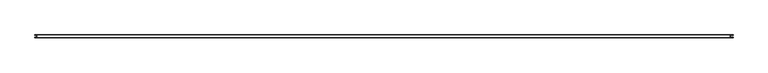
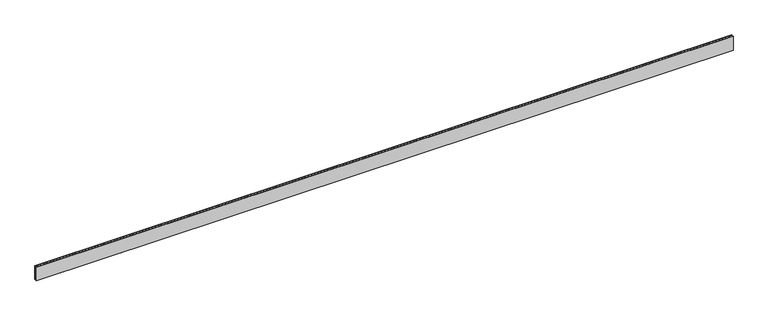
"""IFC4 building model written with IfcOpenShell, lengths in millimetres: proxy geometry, Durabond Generic Soffit Drainage Vent : Durabond Generic Soffit Drainage Vent."""

from ifc_helpers import new_model, si_unit, origin, origin_with_axes, place, context, project, spatial, polyline, outline, extrude, source, transform, mapped, element, save


def generic_models_2e656d56(model_context):
    return source(origin(), model_context, "Body", "SweptSolid", [
        extrude(outline(polyline([(-605.7989751, -3.96875), (-605.7989751, -0.79375), (-609.3708501, -0.79375), (-609.3708501, 0.0), (609.3708501, 0.0), (609.3708501, -0.79375), (604.6083501, -0.79375), (604.6083501, -3.96875), (609.3708501, -3.96875), (609.3708501, -4.7625), (-609.3708501, -4.7625), (-609.3708501, -3.96875), (-605.7989751, -3.96875)]), holes=[polyline([(-600.2248016, -0.79375), (-604.9873016, -0.79375), (-604.9873016, -3.96875), (-600.2248016, -3.96875), (-600.2248016, -0.79375)]), polyline([(-599.4131281, -0.79375), (-599.4131281, -3.96875), (-594.6506281, -3.96875), (-594.6506281, -0.79375), (-599.4131281, -0.79375)]), polyline([(-589.0764546, -0.79375), (-593.8389546, -0.79375), (-593.8389546, -3.96875), (-589.0764546, -3.96875), (-589.0764546, -0.79375)]), polyline([(-588.264781, -0.79375), (-588.264781, -3.96875), (-583.502281, -3.96875), (-583.502281, -0.79375), (-588.264781, -0.79375)]), polyline([(-577.9281075, -0.79375), (-582.6906075, -0.79375), (-582.6906075, -3.96875), (-577.9281075, -3.96875), (-577.9281075, -0.79375)]), polyline([(-577.116434, -0.79375), (-577.116434, -3.96875), (-572.353934, -3.96875), (-572.353934, -0.79375), (-577.116434, -0.79375)]), polyline([(-566.7797605, -0.79375), (-571.5422605, -0.79375), (-571.5422605, -3.96875), (-566.7797605, -3.96875), (-566.7797605, -0.79375)]), polyline([(-565.968087, -0.79375), (-565.968087, -3.96875), (-561.205587, -3.96875), (-561.205587, -0.79375), (-565.968087, -0.79375)]), polyline([(-555.6314135, -0.79375), (-560.3939135, -0.79375), (-560.3939135, -3.96875), (-555.6314135, -3.96875), (-555.6314135, -0.79375)]), polyline([(-554.81974, -0.79375), (-554.81974, -3.96875), (-550.05724, -3.96875), (-550.05724, -0.79375), (-554.81974, -0.79375)]), polyline([(-544.4830665, -0.79375), (-549.2455665, -0.79375), (-549.2455665, -3.96875), (-544.4830665, -3.96875), (-544.4830665, -0.79375)]), polyline([(-543.671393, -0.79375), (-543.671393, -3.96875), (-538.908893, -3.96875), (-538.908893, -0.79375), (-543.671393, -0.79375)]), polyline([(-533.3347195, -0.79375), (-538.0972195, -0.79375), (-538.0972195, -3.96875), (-533.3347195, -3.96875), (-533.3347195, -0.79375)]), polyline([(-532.5230459, -0.79375), (-532.5230459, -3.96875), (-527.7605459, -3.96875), (-527.7605459, -0.79375), (-532.5230459, -0.79375)]), polyline([(-522.1863724, -0.79375), (-526.9488724, -0.79375), (-526.9488724, -3.96875), (-522.1863724, -3.96875), (-522.1863724, -0.79375)]), polyline([(-521.3746989, -0.79375), (-521.3746989, -3.96875), (-516.6121989, -3.96875), (-516.6121989, -0.79375), (-521.3746989, -0.79375)]), polyline([(-511.0380254, -0.79375), (-515.8005254, -0.79375), (-515.8005254, -3.96875), (-511.0380254, -3.96875), (-511.0380254, -0.79375)]), polyline([(-510.2263519, -0.79375), (-510.2263519, -3.96875), (-505.4638519, -3.96875), (-505.4638519, -0.79375), (-510.2263519, -0.79375)]), polyline([(-499.8896784, -0.79375), (-504.6521784, -0.79375), (-504.6521784, -3.96875), (-499.8896784, -3.96875), (-499.8896784, -0.79375)]), polyline([(-499.0780049, -0.79375), (-499.0780049, -3.96875), (-494.3155049, -3.96875), (-494.3155049, -0.79375), (-499.0780049, -0.79375)]), polyline([(-488.7413314, -0.79375), (-493.5038314, -0.79375), (-493.5038314, -3.96875), (-488.7413314, -3.96875), (-488.7413314, -0.79375)]), polyline([(-487.9296579, -0.79375), (-487.9296579, -3.96875), (-483.1671579, -3.96875), (-483.1671579, -0.79375), (-487.9296579, -0.79375)]), polyline([(-477.5929844, -0.79375), (-482.3554844, -0.79375), (-482.3554844, -3.96875), (-477.5929844, -3.96875), (-477.5929844, -0.79375)]), polyline([(-476.7813108, -0.79375), (-476.7813108, -3.96875), (-472.0188108, -3.96875), (-472.0188108, -0.79375), (-476.7813108, -0.79375)]), polyline([(-466.4446373, -0.79375), (-471.2071373, -0.79375), (-471.2071373, -3.96875), (-466.4446373, -3.96875), (-466.4446373, -0.79375)]), polyline([(-465.6329638, -0.79375), (-465.6329638, -3.96875), (-460.8704638, -3.96875), (-460.8704638, -0.79375), (-465.6329638, -0.79375)]), polyline([(-455.2962903, -0.79375), (-460.0587903, -0.79375), (-460.0587903, -3.96875), (-455.2962903, -3.96875), (-455.2962903, -0.79375)]), polyline([(-454.4846168, -0.79375), (-454.4846168, -3.96875), (-449.7221168, -3.96875), (-449.7221168, -0.79375), (-454.4846168, -0.79375)]), polyline([(-444.1479433, -0.79375), (-448.9104433, -0.79375), (-448.9104433, -3.96875), (-444.1479433, -3.96875), (-444.1479433, -0.79375)]), polyline([(-443.3362698, -0.79375), (-443.3362698, -3.96875), (-438.5737698, -3.96875), (-438.5737698, -0.79375), (-443.3362698, -0.79375)]), polyline([(-432.9995963, -0.79375), (-437.7620963, -0.79375), (-437.7620963, -3.96875), (-432.9995963, -3.96875), (-432.9995963, -0.79375)]), polyline([(-432.1879228, -0.79375), (-432.1879228, -3.96875), (-427.4254228, -3.96875), (-427.4254228, -0.79375), (-432.1879228, -0.79375)]), polyline([(-421.8512493, -0.79375), (-426.6137493, -0.79375), (-426.6137493, -3.96875), (-421.8512493, -3.96875), (-421.8512493, -0.79375)]), polyline([(-421.0395757, -0.79375), (-421.0395757, -3.96875), (-416.2770757, -3.96875), (-416.2770757, -0.79375), (-421.0395757, -0.79375)]), polyline([(-410.7029022, -0.79375), (-415.4654022, -0.79375), (-415.4654022, -3.96875), (-410.7029022, -3.96875), (-410.7029022, -0.79375)]), polyline([(-409.8912287, -0.79375), (-409.8912287, -3.96875), (-405.1287287, -3.96875), (-405.1287287, -0.79375), (-409.8912287, -0.79375)]), polyline([(-399.5545552, -0.79375), (-404.3170552, -0.79375), (-404.3170552, -3.96875), (-399.5545552, -3.96875), (-399.5545552, -0.79375)]), polyline([(-398.7428817, -0.79375), (-398.7428817, -3.96875), (-393.9803817, -3.96875), (-393.9803817, -0.79375), (-398.7428817, -0.79375)]), polyline([(-388.4062082, -0.79375), (-393.1687082, -0.79375), (-393.1687082, -3.96875), (-388.4062082, -3.96875), (-388.4062082, -0.79375)]), polyline([(-387.5945347, -0.79375), (-387.5945347, -3.96875), (-382.8320347, -3.96875), (-382.8320347, -0.79375), (-387.5945347, -0.79375)]), polyline([(-377.2578612, -0.79375), (-382.0203612, -0.79375), (-382.0203612, -3.96875), (-377.2578612, -3.96875), (-377.2578612, -0.79375)]), polyline([(-376.4461877, -0.79375), (-376.4461877, -3.96875), (-371.6836877, -3.96875), (-371.6836877, -0.79375), (-376.4461877, -0.79375)]), polyline([(-366.1095142, -0.79375), (-370.8720142, -0.79375), (-370.8720142, -3.96875), (-366.1095142, -3.96875), (-366.1095142, -0.79375)]), polyline([(-365.2978406, -0.79375), (-365.2978406, -3.96875), (-360.5353406, -3.96875), (-360.5353406, -0.79375), (-365.2978406, -0.79375)]), polyline([(-354.9611671, -0.79375), (-359.7236671, -0.79375), (-359.7236671, -3.96875), (-354.9611671, -3.96875), (-354.9611671, -0.79375)]), polyline([(-354.1494936, -0.79375), (-354.1494936, -3.96875), (-349.3869936, -3.96875), (-349.3869936, -0.79375), (-354.1494936, -0.79375)]), polyline([(-343.8128201, -0.79375), (-348.5753201, -0.79375), (-348.5753201, -3.96875), (-343.8128201, -3.96875), (-343.8128201, -0.79375)]), polyline([(-343.0011466, -0.79375), (-343.0011466, -3.96875), (-338.2386466, -3.96875), (-338.2386466, -0.79375), (-343.0011466, -0.79375)]), polyline([(-332.6644731, -0.79375), (-337.4269731, -0.79375), (-337.4269731, -3.96875), (-332.6644731, -3.96875), (-332.6644731, -0.79375)]), polyline([(-331.8527996, -0.79375), (-331.8527996, -3.96875), (-327.0902996, -3.96875), (-327.0902996, -0.79375), (-331.8527996, -0.79375)]), polyline([(-321.5161261, -0.79375), (-326.2786261, -0.79375), (-326.2786261, -3.96875), (-321.5161261, -3.96875), (-321.5161261, -0.79375)]), polyline([(-320.7044526, -0.79375), (-320.7044526, -3.96875), (-315.9419526, -3.96875), (-315.9419526, -0.79375), (-320.7044526, -0.79375)]), polyline([(-310.3677791, -0.79375), (-315.1302791, -0.79375), (-315.1302791, -3.96875), (-310.3677791, -3.96875), (-310.3677791, -0.79375)]), polyline([(-309.5561055, -0.79375), (-309.5561055, -3.96875), (-304.7936055, -3.96875), (-304.7936055, -0.79375), (-309.5561055, -0.79375)]), polyline([(-299.219432, -0.79375), (-303.981932, -0.79375), (-303.981932, -3.96875), (-299.219432, -3.96875), (-299.219432, -0.79375)]), polyline([(-298.4077585, -0.79375), (-298.4077585, -3.96875), (-293.6452585, -3.96875), (-293.6452585, -0.79375), (-298.4077585, -0.79375)]), polyline([(-288.071085, -0.79375), (-292.833585, -0.79375), (-292.833585, -3.96875), (-288.071085, -3.96875), (-288.071085, -0.79375)]), polyline([(-287.2594115, -0.79375), (-287.2594115, -3.96875), (-282.4969115, -3.96875), (-282.4969115, -0.79375), (-287.2594115, -0.79375)]), polyline([(-276.922738, -0.79375), (-281.685238, -0.79375), (-281.685238, -3.96875), (-276.922738, -3.96875), (-276.922738, -0.79375)]), polyline([(-276.1110645, -0.79375), (-276.1110645, -3.96875), (-271.3485645, -3.96875), (-271.3485645, -0.79375), (-276.1110645, -0.79375)]), polyline([(-265.774391, -0.79375), (-270.536891, -0.79375), (-270.536891, -3.96875), (-265.774391, -3.96875), (-265.774391, -0.79375)]), polyline([(-264.9627175, -0.79375), (-264.9627175, -3.96875), (-260.2002175, -3.96875), (-260.2002175, -0.79375), (-264.9627175, -0.79375)]), polyline([(-254.626044, -0.79375), (-259.388544, -0.79375), (-259.388544, -3.96875), (-254.626044, -3.96875), (-254.626044, -0.79375)]), polyline([(-253.8143704, -0.79375), (-253.8143704, -3.96875), (-249.0518704, -3.96875), (-249.0518704, -0.79375), (-253.8143704, -0.79375)]), polyline([(-243.4776969, -0.79375), (-248.2401969, -0.79375), (-248.2401969, -3.96875), (-243.4776969, -3.96875), (-243.4776969, -0.79375)]), polyline([(-242.6660234, -0.79375), (-242.6660234, -3.96875), (-237.9035234, -3.96875), (-237.9035234, -0.79375), (-242.6660234, -0.79375)]), polyline([(-232.3293499, -0.79375), (-237.0918499, -0.79375), (-237.0918499, -3.96875), (-232.3293499, -3.96875), (-232.3293499, -0.79375)]), polyline([(-231.5176764, -0.79375), (-231.5176764, -3.96875), (-226.7551764, -3.96875), (-226.7551764, -0.79375), (-231.5176764, -0.79375)]), polyline([(-221.1810029, -0.79375), (-225.9435029, -0.79375), (-225.9435029, -3.96875), (-221.1810029, -3.96875), (-221.1810029, -0.79375)]), polyline([(-220.3693294, -0.79375), (-220.3693294, -3.96875), (-215.6068294, -3.96875), (-215.6068294, -0.79375), (-220.3693294, -0.79375)]), polyline([(-210.0326559, -0.79375), (-214.7951559, -0.79375), (-214.7951559, -3.96875), (-210.0326559, -3.96875), (-210.0326559, -0.79375)]), polyline([(-209.2209824, -0.79375), (-209.2209824, -3.96875), (-204.4584824, -3.96875), (-204.4584824, -0.79375), (-209.2209824, -0.79375)]), polyline([(-198.8843089, -0.79375), (-203.6468089, -0.79375), (-203.6468089, -3.96875), (-198.8843089, -3.96875), (-198.8843089, -0.79375)]), polyline([(-198.0726353, -0.79375), (-198.0726353, -3.96875), (-193.3101353, -3.96875), (-193.3101353, -0.79375), (-198.0726353, -0.79375)]), polyline([(-187.7359618, -0.79375), (-192.4984618, -0.79375), (-192.4984618, -3.96875), (-187.7359618, -3.96875), (-187.7359618, -0.79375)]), polyline([(-186.9242883, -0.79375), (-186.9242883, -3.96875), (-182.1617883, -3.96875), (-182.1617883, -0.79375), (-186.9242883, -0.79375)]), polyline([(-176.5876148, -0.79375), (-181.3501148, -0.79375), (-181.3501148, -3.96875), (-176.5876148, -3.96875), (-176.5876148, -0.79375)]), polyline([(-175.7759413, -0.79375), (-175.7759413, -3.96875), (-171.0134413, -3.96875), (-171.0134413, -0.79375), (-175.7759413, -0.79375)]), polyline([(-165.4392678, -0.79375), (-170.2017678, -0.79375), (-170.2017678, -3.96875), (-165.4392678, -3.96875), (-165.4392678, -0.79375)]), polyline([(-164.6275943, -0.79375), (-164.6275943, -3.96875), (-159.8650943, -3.96875), (-159.8650943, -0.79375), (-164.6275943, -0.79375)]), polyline([(-154.2909208, -0.79375), (-159.0534208, -0.79375), (-159.0534208, -3.96875), (-154.2909208, -3.96875), (-154.2909208, -0.79375)]), polyline([(-153.4792473, -0.79375), (-153.4792473, -3.96875), (-148.7167473, -3.96875), (-148.7167473, -0.79375), (-153.4792473, -0.79375)]), polyline([(-143.1425738, -0.79375), (-147.9050738, -0.79375), (-147.9050738, -3.96875), (-143.1425738, -3.96875), (-143.1425738, -0.79375)]), polyline([(-142.3309002, -0.79375), (-142.3309002, -3.96875), (-137.5684002, -3.96875), (-137.5684002, -0.79375), (-142.3309002, -0.79375)]), polyline([(-131.9942267, -0.79375), (-136.7567267, -0.79375), (-136.7567267, -3.96875), (-131.9942267, -3.96875), (-131.9942267, -0.79375)]), polyline([(-131.1825532, -0.79375), (-131.1825532, -3.96875), (-126.4200532, -3.96875), (-126.4200532, -0.79375), (-131.1825532, -0.79375)]), polyline([(-120.8458797, -0.79375), (-125.6083797, -0.79375), (-125.6083797, -3.96875), (-120.8458797, -3.96875), (-120.8458797, -0.79375)]), polyline([(-120.0342062, -0.79375), (-120.0342062, -3.96875), (-115.2717062, -3.96875), (-115.2717062, -0.79375), (-120.0342062, -0.79375)]), polyline([(-109.6975327, -0.79375), (-114.4600327, -0.79375), (-114.4600327, -3.96875), (-109.6975327, -3.96875), (-109.6975327, -0.79375)]), polyline([(-108.8858592, -0.79375), (-108.8858592, -3.96875), (-104.1233592, -3.96875), (-104.1233592, -0.79375), (-108.8858592, -0.79375)]), polyline([(-98.5491857, -0.79375), (-103.3116857, -0.79375), (-103.3116857, -3.96875), (-98.5491857, -3.96875), (-98.5491857, -0.79375)]), polyline([(-97.7375122, -0.79375), (-97.7375122, -3.96875), (-92.9750122, -3.96875), (-92.9750122, -0.79375), (-97.7375122, -0.79375)]), polyline([(-87.4008387, -0.79375), (-92.1633387, -0.79375), (-92.1633387, -3.96875), (-87.4008387, -3.96875), (-87.4008387, -0.79375)]), polyline([(-86.5891651, -0.79375), (-86.5891651, -3.96875), (-81.8266651, -3.96875), (-81.8266651, -0.79375), (-86.5891651, -0.79375)]), polyline([(-76.2524916, -0.79375), (-81.0149916, -0.79375), (-81.0149916, -3.96875), (-76.2524916, -3.96875), (-76.2524916, -0.79375)]), polyline([(-75.4408181, -0.79375), (-75.4408181, -3.96875), (-70.6783181, -3.96875), (-70.6783181, -0.79375), (-75.4408181, -0.79375)]), polyline([(-65.1041446, -0.79375), (-69.8666446, -0.79375), (-69.8666446, -3.96875), (-65.1041446, -3.96875), (-65.1041446, -0.79375)]), polyline([(-64.2924711, -0.79375), (-64.2924711, -3.96875), (-59.5299711, -3.96875), (-59.5299711, -0.79375), (-64.2924711, -0.79375)]), polyline([(-53.9557976, -0.79375), (-58.7182976, -0.79375), (-58.7182976, -3.96875), (-53.9557976, -3.96875), (-53.9557976, -0.79375)]), polyline([(-53.1441241, -0.79375), (-53.1441241, -3.96875), (-48.3816241, -3.96875), (-48.3816241, -0.79375), (-53.1441241, -0.79375)]), polyline([(-42.8074506, -0.79375), (-47.5699506, -0.79375), (-47.5699506, -3.96875), (-42.8074506, -3.96875), (-42.8074506, -0.79375)]), polyline([(-41.9957771, -0.79375), (-41.9957771, -3.96875), (-37.2332771, -3.96875), (-37.2332771, -0.79375), (-41.9957771, -0.79375)]), polyline([(-31.6591036, -0.79375), (-36.4216036, -0.79375), (-36.4216036, -3.96875), (-31.6591036, -3.96875), (-31.6591036, -0.79375)]), polyline([(-30.84743, -0.79375), (-30.84743, -3.96875), (-26.08493, -3.96875), (-26.08493, -0.79375), (-30.84743, -0.79375)]), polyline([(-20.5107565, -0.79375), (-25.2732565, -0.79375), (-25.2732565, -3.96875), (-20.5107565, -3.96875), (-20.5107565, -0.79375)]), polyline([(-19.699083, -0.79375), (-19.699083, -3.96875), (-14.936583, -3.96875), (-14.936583, -0.79375), (-19.699083, -0.79375)]), polyline([(-9.3624095, -0.79375), (-14.1249095, -0.79375), (-14.1249095, -3.96875), (-9.3624095, -3.96875), (-9.3624095, -0.79375)]), polyline([(-8.550736, -0.79375), (-8.550736, -3.96875), (-3.788236, -3.96875), (-3.788236, -0.79375), (-8.550736, -0.79375)]), polyline([(1.7859375, -0.79375), (-2.9765625, -0.79375), (-2.9765625, -3.96875), (1.7859375, -3.96875), (1.7859375, -0.79375)]), polyline([(2.597611, -0.79375), (2.597611, -3.96875), (7.360111, -3.96875), (7.360111, -0.79375), (2.597611, -0.79375)]), polyline([(12.9342845, -0.79375), (8.1717845, -0.79375), (8.1717845, -3.96875), (12.9342845, -3.96875), (12.9342845, -0.79375)]), polyline([(13.745958, -0.79375), (13.745958, -3.96875), (18.508458, -3.96875), (18.508458, -0.79375), (13.745958, -0.79375)]), polyline([(24.0826315, -0.79375), (19.3201315, -0.79375), (19.3201315, -3.96875), (24.0826315, -3.96875), (24.0826315, -0.79375)]), polyline([(24.894305, -0.79375), (24.894305, -3.96875), (29.656805, -3.96875), (29.656805, -0.79375), (24.894305, -0.79375)]), polyline([(35.2309786, -0.79375), (30.4684786, -0.79375), (30.4684786, -3.96875), (35.2309786, -3.96875), (35.2309786, -0.79375)]), polyline([(36.0426521, -0.79375), (36.0426521, -3.96875), (40.8051521, -3.96875), (40.8051521, -0.79375), (36.0426521, -0.79375)]), polyline([(46.3793256, -0.79375), (41.6168256, -0.79375), (41.6168256, -3.96875), (46.3793256, -3.96875), (46.3793256, -0.79375)]), polyline([(47.1909991, -0.79375), (47.1909991, -3.96875), (51.9534991, -3.96875), (51.9534991, -0.79375), (47.1909991, -0.79375)]), polyline([(57.5276726, -0.79375), (52.7651726, -0.79375), (52.7651726, -3.96875), (57.5276726, -3.96875), (57.5276726, -0.79375)]), polyline([(58.3393461, -0.79375), (58.3393461, -3.96875), (63.1018461, -3.96875), (63.1018461, -0.79375), (58.3393461, -0.79375)]), polyline([(68.6760196, -0.79375), (63.9135196, -0.79375), (63.9135196, -3.96875), (68.6760196, -3.96875), (68.6760196, -0.79375)]), polyline([(69.4876931, -0.79375), (69.4876931, -3.96875), (74.2501931, -3.96875), (74.2501931, -0.79375), (69.4876931, -0.79375)]), polyline([(79.8243666, -0.79375), (75.0618666, -0.79375), (75.0618666, -3.96875), (79.8243666, -3.96875), (79.8243666, -0.79375)]), polyline([(80.6360401, -0.79375), (80.6360401, -3.96875), (85.3985401, -3.96875), (85.3985401, -0.79375), (80.6360401, -0.79375)]), polyline([(90.9727137, -0.79375), (86.2102137, -0.79375), (86.2102137, -3.96875), (90.9727137, -3.96875), (90.9727137, -0.79375)]), polyline([(91.7843872, -0.79375), (91.7843872, -3.96875), (96.5468872, -3.96875), (96.5468872, -0.79375), (91.7843872, -0.79375)]), polyline([(102.1210607, -0.79375), (97.3585607, -0.79375), (97.3585607, -3.96875), (102.1210607, -3.96875), (102.1210607, -0.79375)]), polyline([(102.9327342, -0.79375), (102.9327342, -3.96875), (107.6952342, -3.96875), (107.6952342, -0.79375), (102.9327342, -0.79375)]), polyline([(113.2694077, -0.79375), (108.5069077, -0.79375), (108.5069077, -3.96875), (113.2694077, -3.96875), (113.2694077, -0.79375)]), polyline([(114.0810812, -0.79375), (114.0810812, -3.96875), (118.8435812, -3.96875), (118.8435812, -0.79375), (114.0810812, -0.79375)]), polyline([(124.4177547, -0.79375), (119.6552547, -0.79375), (119.6552547, -3.96875), (124.4177547, -3.96875), (124.4177547, -0.79375)]), polyline([(125.2294282, -0.79375), (125.2294282, -3.96875), (129.9919282, -3.96875), (129.9919282, -0.79375), (125.2294282, -0.79375)]), polyline([(135.5661017, -0.79375), (130.8036017, -0.79375), (130.8036017, -3.96875), (135.5661017, -3.96875), (135.5661017, -0.79375)]), polyline([(136.3777752, -0.79375), (136.3777752, -3.96875), (141.1402752, -3.96875), (141.1402752, -0.79375), (136.3777752, -0.79375)]), polyline([(146.7144488, -0.79375), (141.9519488, -0.79375), (141.9519488, -3.96875), (146.7144488, -3.96875), (146.7144488, -0.79375)]), polyline([(147.5261223, -0.79375), (147.5261223, -3.96875), (152.2886223, -3.96875), (152.2886223, -0.79375), (147.5261223, -0.79375)]), polyline([(157.8627958, -0.79375), (153.1002958, -0.79375), (153.1002958, -3.96875), (157.8627958, -3.96875), (157.8627958, -0.79375)]), polyline([(158.6744693, -0.79375), (158.6744693, -3.96875), (163.4369693, -3.96875), (163.4369693, -0.79375), (158.6744693, -0.79375)]), polyline([(169.0111428, -0.79375), (164.2486428, -0.79375), (164.2486428, -3.96875), (169.0111428, -3.96875), (169.0111428, -0.79375)]), polyline([(169.8228163, -0.79375), (169.8228163, -3.96875), (174.5853163, -3.96875), (174.5853163, -0.79375), (169.8228163, -0.79375)]), polyline([(180.1594898, -0.79375), (175.3969898, -0.79375), (175.3969898, -3.96875), (180.1594898, -3.96875), (180.1594898, -0.79375)]), polyline([(180.9711633, -0.79375), (180.9711633, -3.96875), (185.7336633, -3.96875), (185.7336633, -0.79375), (180.9711633, -0.79375)]), polyline([(191.3078368, -0.79375), (186.5453368, -0.79375), (186.5453368, -3.96875), (191.3078368, -3.96875), (191.3078368, -0.79375)]), polyline([(192.1195103, -0.79375), (192.1195103, -3.96875), (196.8820103, -3.96875), (196.8820103, -0.79375), (192.1195103, -0.79375)]), polyline([(202.4561839, -0.79375), (197.6936839, -0.79375), (197.6936839, -3.96875), (202.4561839, -3.96875), (202.4561839, -0.79375)]), polyline([(203.2678574, -0.79375), (203.2678574, -3.96875), (208.0303574, -3.96875), (208.0303574, -0.79375), (203.2678574, -0.79375)]), polyline([(213.6045309, -0.79375), (208.8420309, -0.79375), (208.8420309, -3.96875), (213.6045309, -3.96875), (213.6045309, -0.79375)]), polyline([(214.4162044, -0.79375), (214.4162044, -3.96875), (219.1787044, -3.96875), (219.1787044, -0.79375), (214.4162044, -0.79375)]), polyline([(224.7528779, -0.79375), (219.9903779, -0.79375), (219.9903779, -3.96875), (224.7528779, -3.96875), (224.7528779, -0.79375)]), polyline([(225.5645514, -0.79375), (225.5645514, -3.96875), (230.3270514, -3.96875), (230.3270514, -0.79375), (225.5645514, -0.79375)]), polyline([(235.9012249, -0.79375), (231.1387249, -0.79375), (231.1387249, -3.96875), (235.9012249, -3.96875), (235.9012249, -0.79375)]), polyline([(236.7128984, -0.79375), (236.7128984, -3.96875), (241.4753984, -3.96875), (241.4753984, -0.79375), (236.7128984, -0.79375)]), polyline([(247.0495719, -0.79375), (242.2870719, -0.79375), (242.2870719, -3.96875), (247.0495719, -3.96875), (247.0495719, -0.79375)]), polyline([(247.8612454, -0.79375), (247.8612454, -3.96875), (252.6237454, -3.96875), (252.6237454, -0.79375), (247.8612454, -0.79375)]), polyline([(258.197919, -0.79375), (253.435419, -0.79375), (253.435419, -3.96875), (258.197919, -3.96875), (258.197919, -0.79375)]), polyline([(259.0095925, -0.79375), (259.0095925, -3.96875), (263.7720925, -3.96875), (263.7720925, -0.79375), (259.0095925, -0.79375)]), polyline([(269.346266, -0.79375), (264.583766, -0.79375), (264.583766, -3.96875), (269.346266, -3.96875), (269.346266, -0.79375)]), polyline([(270.1579395, -0.79375), (270.1579395, -3.96875), (274.9204395, -3.96875), (274.9204395, -0.79375), (270.1579395, -0.79375)]), polyline([(280.494613, -0.79375), (275.732113, -0.79375), (275.732113, -3.96875), (280.494613, -3.96875), (280.494613, -0.79375)]), polyline([(281.3062865, -0.79375), (281.3062865, -3.96875), (286.0687865, -3.96875), (286.0687865, -0.79375), (281.3062865, -0.79375)]), polyline([(291.64296, -0.79375), (286.88046, -0.79375), (286.88046, -3.96875), (291.64296, -3.96875), (291.64296, -0.79375)]), polyline([(292.4546335, -0.79375), (292.4546335, -3.96875), (297.2171335, -3.96875), (297.2171335, -0.79375), (292.4546335, -0.79375)]), polyline([(302.791307, -0.79375), (298.028807, -0.79375), (298.028807, -3.96875), (302.791307, -3.96875), (302.791307, -0.79375)]), polyline([(303.6029805, -0.79375), (303.6029805, -3.96875), (308.3654805, -3.96875), (308.3654805, -0.79375), (303.6029805, -0.79375)]), polyline([(313.9396541, -0.79375), (309.1771541, -0.79375), (309.1771541, -3.96875), (313.9396541, -3.96875), (313.9396541, -0.79375)]), polyline([(314.7513276, -0.79375), (314.7513276, -3.96875), (319.5138276, -3.96875), (319.5138276, -0.79375), (314.7513276, -0.79375)]), polyline([(325.0880011, -0.79375), (320.3255011, -0.79375), (320.3255011, -3.96875), (325.0880011, -3.96875), (325.0880011, -0.79375)]), polyline([(325.8996746, -0.79375), (325.8996746, -3.96875), (330.6621746, -3.96875), (330.6621746, -0.79375), (325.8996746, -0.79375)]), polyline([(336.2363481, -0.79375), (331.4738481, -0.79375), (331.4738481, -3.96875), (336.2363481, -3.96875), (336.2363481, -0.79375)]), polyline([(337.0480216, -0.79375), (337.0480216, -3.96875), (341.8105216, -3.96875), (341.8105216, -0.79375), (337.0480216, -0.79375)]), polyline([(347.3846951, -0.79375), (342.6221951, -0.79375), (342.6221951, -3.96875), (347.3846951, -3.96875), (347.3846951, -0.79375)]), polyline([(348.1963686, -0.79375), (348.1963686, -3.96875), (352.9588686, -3.96875), (352.9588686, -0.79375), (348.1963686, -0.79375)]), polyline([(358.5330421, -0.79375), (353.7705421, -0.79375), (353.7705421, -3.96875), (358.5330421, -3.96875), (358.5330421, -0.79375)]), polyline([(359.3447156, -0.79375), (359.3447156, -3.96875), (364.1072156, -3.96875), (364.1072156, -0.79375), (359.3447156, -0.79375)]), polyline([(369.6813892, -0.79375), (364.9188892, -0.79375), (364.9188892, -3.96875), (369.6813892, -3.96875), (369.6813892, -0.79375)]), polyline([(370.4930627, -0.79375), (370.4930627, -3.96875), (375.2555627, -3.96875), (375.2555627, -0.79375), (370.4930627, -0.79375)]), polyline([(380.8297362, -0.79375), (376.0672362, -0.79375), (376.0672362, -3.96875), (380.8297362, -3.96875), (380.8297362, -0.79375)]), polyline([(381.6414097, -0.79375), (381.6414097, -3.96875), (386.4039097, -3.96875), (386.4039097, -0.79375), (381.6414097, -0.79375)]), polyline([(391.9780832, -0.79375), (387.2155832, -0.79375), (387.2155832, -3.96875), (391.9780832, -3.96875), (391.9780832, -0.79375)]), polyline([(392.7897567, -0.79375), (392.7897567, -3.96875), (397.5522567, -3.96875), (397.5522567, -0.79375), (392.7897567, -0.79375)]), polyline([(403.1264302, -0.79375), (398.3639302, -0.79375), (398.3639302, -3.96875), (403.1264302, -3.96875), (403.1264302, -0.79375)]), polyline([(403.9381037, -0.79375), (403.9381037, -3.96875), (408.7006037, -3.96875), (408.7006037, -0.79375), (403.9381037, -0.79375)]), polyline([(414.2747772, -0.79375), (409.5122772, -0.79375), (409.5122772, -3.96875), (414.2747772, -3.96875), (414.2747772, -0.79375)]), polyline([(415.0864507, -0.79375), (415.0864507, -3.96875), (419.8489507, -3.96875), (419.8489507, -0.79375), (415.0864507, -0.79375)]), polyline([(425.4231243, -0.79375), (420.6606243, -0.79375), (420.6606243, -3.96875), (425.4231243, -3.96875), (425.4231243, -0.79375)]), polyline([(426.2347978, -0.79375), (426.2347978, -3.96875), (430.9972978, -3.96875), (430.9972978, -0.79375), (426.2347978, -0.79375)]), polyline([(436.5714713, -0.79375), (431.8089713, -0.79375), (431.8089713, -3.96875), (436.5714713, -3.96875), (436.5714713, -0.79375)]), polyline([(437.3831448, -0.79375), (437.3831448, -3.96875), (442.1456448, -3.96875), (442.1456448, -0.79375), (437.3831448, -0.79375)]), polyline([(447.7198183, -0.79375), (442.9573183, -0.79375), (442.9573183, -3.96875), (447.7198183, -3.96875), (447.7198183, -0.79375)]), polyline([(448.5314918, -0.79375), (448.5314918, -3.96875), (453.2939918, -3.96875), (453.2939918, -0.79375), (448.5314918, -0.79375)]), polyline([(458.8681653, -0.79375), (454.1056653, -0.79375), (454.1056653, -3.96875), (458.8681653, -3.96875), (458.8681653, -0.79375)]), polyline([(459.6798388, -0.79375), (459.6798388, -3.96875), (464.4423388, -3.96875), (464.4423388, -0.79375), (459.6798388, -0.79375)]), polyline([(470.0165123, -0.79375), (465.2540123, -0.79375), (465.2540123, -3.96875), (470.0165123, -3.96875), (470.0165123, -0.79375)]), polyline([(470.8281858, -0.79375), (470.8281858, -3.96875), (475.5906858, -3.96875), (475.5906858, -0.79375), (470.8281858, -0.79375)]), polyline([(481.1648594, -0.79375), (476.4023594, -0.79375), (476.4023594, -3.96875), (481.1648594, -3.96875), (481.1648594, -0.79375)]), polyline([(481.9765329, -0.79375), (481.9765329, -3.96875), (486.7390329, -3.96875), (486.7390329, -0.79375), (481.9765329, -0.79375)]), polyline([(492.3132064, -0.79375), (487.5507064, -0.79375), (487.5507064, -3.96875), (492.3132064, -3.96875), (492.3132064, -0.79375)]), polyline([(493.1248799, -0.79375), (493.1248799, -3.96875), (497.8873799, -3.96875), (497.8873799, -0.79375), (493.1248799, -0.79375)]), polyline([(503.4615534, -0.79375), (498.6990534, -0.79375), (498.6990534, -3.96875), (503.4615534, -3.96875), (503.4615534, -0.79375)]), polyline([(504.2732269, -0.79375), (504.2732269, -3.96875), (509.0357269, -3.96875), (509.0357269, -0.79375), (504.2732269, -0.79375)]), polyline([(514.6099004, -0.79375), (509.8474004, -0.79375), (509.8474004, -3.96875), (514.6099004, -3.96875), (514.6099004, -0.79375)]), polyline([(515.4215739, -0.79375), (515.4215739, -3.96875), (520.1840739, -3.96875), (520.1840739, -0.79375), (515.4215739, -0.79375)]), polyline([(525.7582474, -0.79375), (520.9957474, -0.79375), (520.9957474, -3.96875), (525.7582474, -3.96875), (525.7582474, -0.79375)]), polyline([(526.5699209, -0.79375), (526.5699209, -3.96875), (531.3324209, -3.96875), (531.3324209, -0.79375), (526.5699209, -0.79375)]), polyline([(536.9065945, -0.79375), (532.1440945, -0.79375), (532.1440945, -3.96875), (536.9065945, -3.96875), (536.9065945, -0.79375)]), polyline([(537.718268, -0.79375), (537.718268, -3.96875), (542.480768, -3.96875), (542.480768, -0.79375), (537.718268, -0.79375)]), polyline([(548.0549415, -0.79375), (543.2924415, -0.79375), (543.2924415, -3.96875), (548.0549415, -3.96875), (548.0549415, -0.79375)]), polyline([(548.866615, -0.79375), (548.866615, -3.96875), (553.629115, -3.96875), (553.629115, -0.79375), (548.866615, -0.79375)]), polyline([(559.2032885, -0.79375), (554.4407885, -0.79375), (554.4407885, -3.96875), (559.2032885, -3.96875), (559.2032885, -0.79375)]), polyline([(560.014962, -0.79375), (560.014962, -3.96875), (564.777462, -3.96875), (564.777462, -0.79375), (560.014962, -0.79375)]), polyline([(570.3516355, -0.79375), (565.5891355, -0.79375), (565.5891355, -3.96875), (570.3516355, -3.96875), (570.3516355, -0.79375)]), polyline([(571.163309, -0.79375), (571.163309, -3.96875), (575.925809, -3.96875), (575.925809, -0.79375), (571.163309, -0.79375)]), polyline([(581.4999825, -0.79375), (576.7374825, -0.79375), (576.7374825, -3.96875), (581.4999825, -3.96875), (581.4999825, -0.79375)]), polyline([(582.311656, -0.79375), (582.311656, -3.96875), (587.074156, -3.96875), (587.074156, -0.79375), (582.311656, -0.79375)]), polyline([(592.6483296, -0.79375), (587.8858296, -0.79375), (587.8858296, -3.96875), (592.6483296, -3.96875), (592.6483296, -0.79375)]), polyline([(593.4600031, -0.79375), (593.4600031, -3.96875), (598.2225031, -3.96875), (598.2225031, -0.79375), (593.4600031, -0.79375)]), polyline([(603.7966766, -0.79375), (599.0341766, -0.79375), (599.0341766, -3.96875), (603.7966766, -3.96875), (603.7966766, -0.79375)])]), origin_with_axes(), (0.0, 0.0, 1.0), 25.4),
    ])


if __name__ == "__main__":
    model = new_model("IFC4")
    model_context = context("Model", 3, world=origin())
    ifc_project = project(units=[si_unit("LENGTHUNIT", "METRE", prefix="MILLI")], contexts=[model_context])
    site = spatial("IfcSite", under=ifc_project)
    building = spatial("IfcBuilding", under=site)
    placement = place(None, origin())
    generic_models_shape = generic_models_2e656d56(model_context)
    element("IfcBuildingElementProxy", 1, Name="Durabond Generic Soffit Drainage Vent : Durabond Generic Soffit Drainage Vent", ObjectType="Durabond Generic Soffit Drainage Vent : Durabond Generic Soffit Drainage Vent", at=placement, inside=building, context=model_context, shape_type="MappedRepresentation", body=[
        mapped(generic_models_shape, transform((0.0, 0.0, 0.0), x_axis=(1.0, 0.0, 0.0), y_axis=(0.0, 1.0, 0.0), z_axis=(0.0, 0.0, 1.0))),
    ])
    save(model, "model.ifc")
